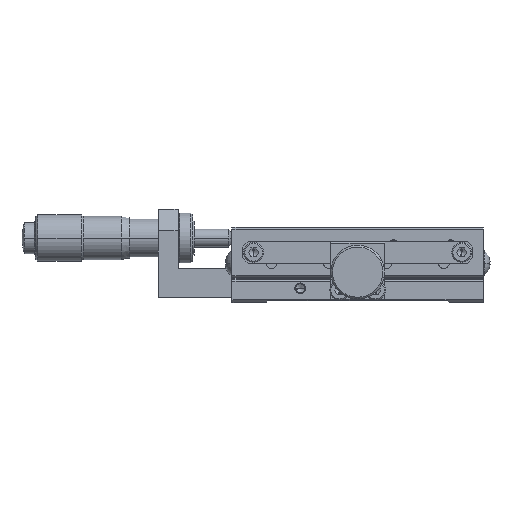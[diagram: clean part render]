
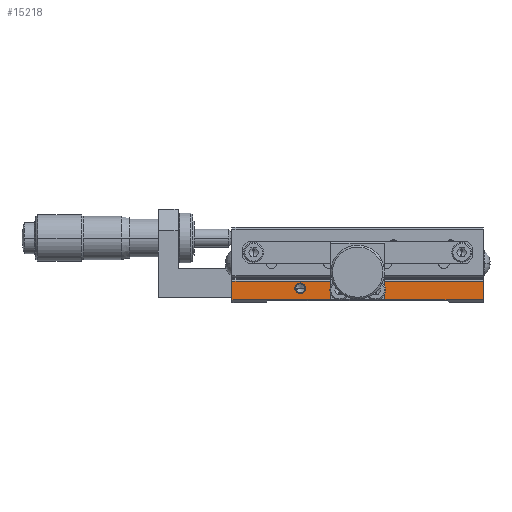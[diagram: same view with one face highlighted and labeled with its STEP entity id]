
A CAD part, left-side view. The second image highlights one B-rep face of the part: STEP entity #15218.
In plain terms, the highlighted planar face has unit normal (-1, 0, 0).
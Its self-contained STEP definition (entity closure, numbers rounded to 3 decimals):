
#14851 = EDGE_CURVE ( 'NONE', #18151, #18144, #37482, .T. ) ;
#15175 = VERTEX_POINT ( 'NONE', #38044 ) ;
#15177 = EDGE_CURVE ( 'NONE', #15175, #15178, #38043, .T. ) ;
#15178 = VERTEX_POINT ( 'NONE', #38039 ) ;
#15212 = VERTEX_POINT ( 'NONE', #38101 ) ;
#15214 = EDGE_CURVE ( 'NONE', #15212, #15215, #38100, .T. ) ;
#15215 = VERTEX_POINT ( 'NONE', #38096 ) ;
#15218 = ADVANCED_FACE ( 'NONE', ( #38091, #38090 ), #38089, .T. ) ;
#15219 = EDGE_LOOP ( 'NONE', ( #15220, #15301 ) ) ;
#15220 = ORIENTED_EDGE ( 'NONE', *, *, #14851, .F. ) ;
#15255 = ORIENTED_EDGE ( 'NONE', *, *, #15177, .F. ) ;
#15256 = ORIENTED_EDGE ( 'NONE', *, *, #15257, .T. ) ;
#15257 = EDGE_CURVE ( 'NONE', #15175, #15258, #38151, .T. ) ;
#15258 = VERTEX_POINT ( 'NONE', #38207 ) ;
#15259 = ORIENTED_EDGE ( 'NONE', *, *, #15260, .F. ) ;
#15260 = EDGE_CURVE ( 'NONE', #15261, #15258, #38206, .T. ) ;
#15261 = VERTEX_POINT ( 'NONE', #38202 ) ;
#15262 = ORIENTED_EDGE ( 'NONE', *, *, #15263, .F. ) ;
#15263 = EDGE_CURVE ( 'NONE', #15215, #15261, #38201, .T. ) ;
#15264 = ORIENTED_EDGE ( 'NONE', *, *, #15214, .F. ) ;
#15265 = ORIENTED_EDGE ( 'NONE', *, *, #15266, .T. ) ;
#15266 = EDGE_CURVE ( 'NONE', #15212, #15267, #38197, .T. ) ;
#15267 = VERTEX_POINT ( 'NONE', #38193 ) ;
#15268 = ORIENTED_EDGE ( 'NONE', *, *, #15269, .T. ) ;
#15269 = EDGE_CURVE ( 'NONE', #15267, #15270, #38192, .T. ) ;
#15270 = VERTEX_POINT ( 'NONE', #38188 ) ;
#15271 = ORIENTED_EDGE ( 'NONE', *, *, #15272, .F. ) ;
#15272 = EDGE_CURVE ( 'NONE', #15178, #15270, #38187, .T. ) ;
#15301 = ORIENTED_EDGE ( 'NONE', *, *, #18149, .F. ) ;
#15302 = EDGE_LOOP ( 'NONE', ( #15255, #15256, #15259, #15262, #15264, #15265, #15268, #15271 ) ) ;
#18144 = VERTEX_POINT ( 'NONE', #43001 ) ;
#18149 = EDGE_CURVE ( 'NONE', #18144, #18151, #43000, .T. ) ;
#18151 = VERTEX_POINT ( 'NONE', #42990 ) ;
#37478 = DIRECTION ( 'NONE',  ( 0., -1., 0. ) ) ;
#37479 = DIRECTION ( 'NONE',  ( -1., 0., 0. ) ) ;
#37480 = CARTESIAN_POINT ( 'NONE',  ( -35., 16., 4. ) ) ;
#37481 = AXIS2_PLACEMENT_3D ( 'NONE', #37480, #37479, #37478 ) ;
#37482 = CIRCLE ( 'NONE', #37481, 1.5 ) ;
#38039 = CARTESIAN_POINT ( 'NONE',  ( -35., 35., 0.8 ) ) ;
#38040 = DIRECTION ( 'NONE',  ( 0., 1., 0. ) ) ;
#38041 = VECTOR ( 'NONE', #38040, 1000. ) ;
#38042 = CARTESIAN_POINT ( 'NONE',  ( -35., -35., 0.8 ) ) ;
#38043 = LINE ( 'NONE', #38042, #38041 ) ;
#38044 = CARTESIAN_POINT ( 'NONE',  ( -35., 7.5, 0.8 ) ) ;
#38086 = AXIS2_PLACEMENT_3D ( 'NONE', #38088, #38147, #38146 ) ;
#38088 = CARTESIAN_POINT ( 'NONE',  ( -35., -35., 0.8 ) ) ;
#38089 = PLANE ( 'NONE',  #38086 ) ;
#38090 = FACE_OUTER_BOUND ( 'NONE', #15302, .T. ) ;
#38091 = FACE_BOUND ( 'NONE', #15219, .T. ) ;
#38096 = CARTESIAN_POINT ( 'NONE',  ( -35., -7.5, 0.8 ) ) ;
#38097 = DIRECTION ( 'NONE',  ( 0., 1., 0. ) ) ;
#38098 = VECTOR ( 'NONE', #38097, 1000. ) ;
#38099 = CARTESIAN_POINT ( 'NONE',  ( -35., -35., 0.8 ) ) ;
#38100 = LINE ( 'NONE', #38099, #38098 ) ;
#38101 = CARTESIAN_POINT ( 'NONE',  ( -35., -35., 0.8 ) ) ;
#38146 = DIRECTION ( 'NONE',  ( 0., 1., 0. ) ) ;
#38147 = DIRECTION ( 'NONE',  ( -1., 0., 0. ) ) ;
#38148 = DIRECTION ( 'NONE',  ( 0., 0., 1. ) ) ;
#38149 = VECTOR ( 'NONE', #38148, 1000. ) ;
#38150 = CARTESIAN_POINT ( 'NONE',  ( -35., 7.5, 0.8 ) ) ;
#38151 = LINE ( 'NONE', #38150, #38149 ) ;
#38184 = DIRECTION ( 'NONE',  ( 0., 0., 1. ) ) ;
#38185 = VECTOR ( 'NONE', #38184, 1000. ) ;
#38186 = CARTESIAN_POINT ( 'NONE',  ( -35., 35., 0.8 ) ) ;
#38187 = LINE ( 'NONE', #38186, #38185 ) ;
#38188 = CARTESIAN_POINT ( 'NONE',  ( -35., 35., 6. ) ) ;
#38189 = DIRECTION ( 'NONE',  ( 0., 1., 0. ) ) ;
#38190 = VECTOR ( 'NONE', #38189, 1000. ) ;
#38191 = CARTESIAN_POINT ( 'NONE',  ( -35., -35., 6. ) ) ;
#38192 = LINE ( 'NONE', #38191, #38190 ) ;
#38193 = CARTESIAN_POINT ( 'NONE',  ( -35., -35., 6. ) ) ;
#38194 = DIRECTION ( 'NONE',  ( 0., 0., 1. ) ) ;
#38195 = VECTOR ( 'NONE', #38194, 1000. ) ;
#38196 = CARTESIAN_POINT ( 'NONE',  ( -35., -35., 0.8 ) ) ;
#38197 = LINE ( 'NONE', #38196, #38195 ) ;
#38198 = DIRECTION ( 'NONE',  ( 0., 0., 1. ) ) ;
#38199 = VECTOR ( 'NONE', #38198, 1000. ) ;
#38200 = CARTESIAN_POINT ( 'NONE',  ( -35., -7.5, 0.8 ) ) ;
#38201 = LINE ( 'NONE', #38200, #38199 ) ;
#38202 = CARTESIAN_POINT ( 'NONE',  ( -35., -7.5, 5.5 ) ) ;
#38203 = DIRECTION ( 'NONE',  ( 0., 1., 0. ) ) ;
#38204 = VECTOR ( 'NONE', #38203, 1000. ) ;
#38205 = CARTESIAN_POINT ( 'NONE',  ( -35., -35., 5.5 ) ) ;
#38206 = LINE ( 'NONE', #38205, #38204 ) ;
#38207 = CARTESIAN_POINT ( 'NONE',  ( -35., 7.5, 5.5 ) ) ;
#42990 = CARTESIAN_POINT ( 'NONE',  ( -35., 14.5, 4. ) ) ;
#42996 = DIRECTION ( 'NONE',  ( 0., -1., 0. ) ) ;
#42997 = DIRECTION ( 'NONE',  ( -1., 0., 0. ) ) ;
#42998 = CARTESIAN_POINT ( 'NONE',  ( -35., 16., 4. ) ) ;
#42999 = AXIS2_PLACEMENT_3D ( 'NONE', #42998, #42997, #42996 ) ;
#43000 = CIRCLE ( 'NONE', #42999, 1.5 ) ;
#43001 = CARTESIAN_POINT ( 'NONE',  ( -35., 17.5, 4. ) ) ;
